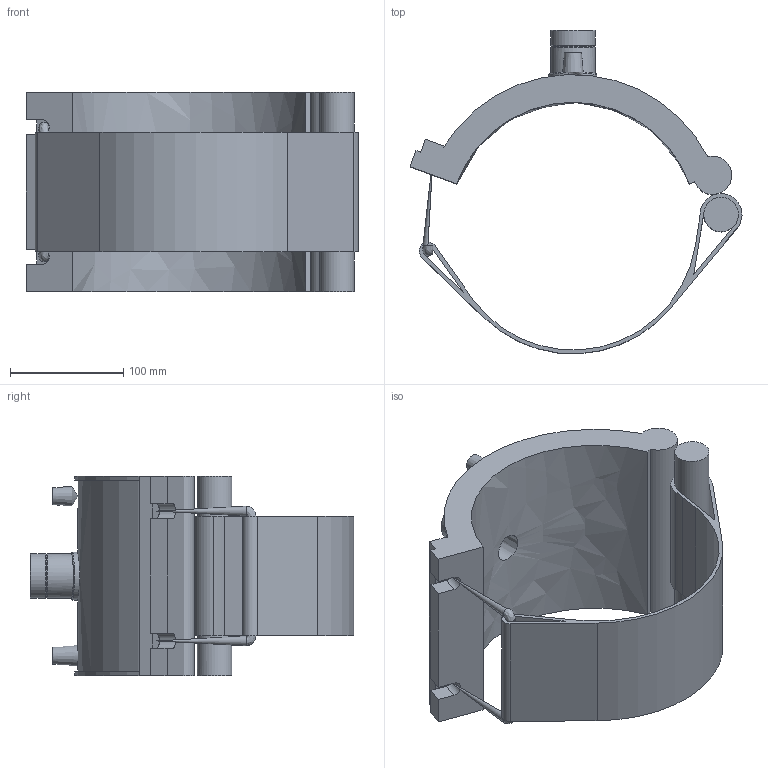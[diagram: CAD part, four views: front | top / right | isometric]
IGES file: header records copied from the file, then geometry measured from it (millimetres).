
Global section: file name: 5938B00308060.ipt; native system: Autodesk Inventor 2019; preprocessor: unknown; author: KIM; date: 20210830.101104; units: inch
Bounding box: 293.08 x 285.6 x 176.02 mm (x, y, z)
Volume: 1694465 mm3; surface area: 292237.1 mm2
Topology: 2 solids, 3 shells, 78 faces, 192 edges, 126 vertices
Faces by surface type: plane 42, cylinder 19, revolution 11, cone 5, bspline 1
Full cylindrical faces by diameter (mm): 4 x2, 8.748 x2, 30.45 x1, 38.378 x1, 39.378 x2, 42.407 x1
